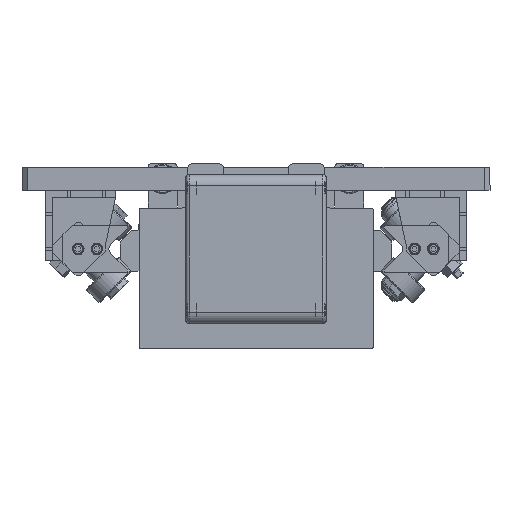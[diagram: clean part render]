
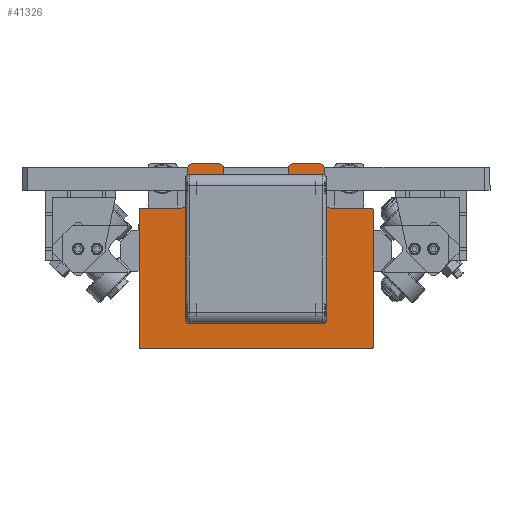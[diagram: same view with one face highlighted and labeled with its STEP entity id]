
A CAD part, front view. The second image highlights one B-rep face of the part: STEP entity #41326.
In plain terms, the highlighted planar face has unit normal (0, -1, 0) as drawn and (0, 0, -1) by its records, which use the part's own axes.
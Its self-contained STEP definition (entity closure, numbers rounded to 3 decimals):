
#40542=CARTESIAN_POINT('',(382.606,259.292,0.0));
#40543=VERTEX_POINT('',#40542);
#40550=CARTESIAN_POINT('',(382.606,280.292,0.0));
#40551=VERTEX_POINT('',#40550);
#40552=CARTESIAN_POINT('',(382.606,259.292,0.0));
#40553=DIRECTION('',(0.0,1.0,0.0));
#40554=VECTOR('',#40553,21.);
#40555=LINE('',#40552,#40554);
#40556=EDGE_CURVE('',#40543,#40551,#40555,.T.);
#40581=CARTESIAN_POINT('',(377.606,254.292,0.0));
#40582=VERTEX_POINT('',#40581);
#40589=CARTESIAN_POINT('',(377.606,259.292,0.0));
#40590=DIRECTION('',(0.0,0.0,1.0));
#40591=DIRECTION('',(0.0,-1.0,0.0));
#40592=AXIS2_PLACEMENT_3D('',#40589,#40590,#40591);
#40593=CIRCLE('',#40592,5.0);
#40594=EDGE_CURVE('',#40582,#40543,#40593,.T.);
#40613=CARTESIAN_POINT('',(349.606,254.292,0.0));
#40614=VERTEX_POINT('',#40613);
#40621=CARTESIAN_POINT('',(349.606,254.292,0.0));
#40622=DIRECTION('',(1.0,0.0,0.0));
#40623=VECTOR('',#40622,28.);
#40624=LINE('',#40621,#40623);
#40625=EDGE_CURVE('',#40614,#40582,#40624,.T.);
#40645=CARTESIAN_POINT('',(344.606,249.292,0.0));
#40646=VERTEX_POINT('',#40645);
#40653=CARTESIAN_POINT('',(349.606,249.292,0.0));
#40654=DIRECTION('',(0.0,0.0,-1.0));
#40655=DIRECTION('',(0.0,-1.0,0.0));
#40656=AXIS2_PLACEMENT_3D('',#40653,#40654,#40655);
#40657=CIRCLE('',#40656,5.0);
#40658=EDGE_CURVE('',#40646,#40614,#40657,.T.);
#40677=CARTESIAN_POINT('',(344.606,204.292,0.0));
#40678=VERTEX_POINT('',#40677);
#40685=CARTESIAN_POINT('',(344.606,204.292,0.0));
#40686=DIRECTION('',(0.0,1.0,0.0));
#40687=VECTOR('',#40686,45.0);
#40688=LINE('',#40685,#40687);
#40689=EDGE_CURVE('',#40678,#40646,#40688,.T.);
#40709=CARTESIAN_POINT('',(349.606,199.292,0.0));
#40710=VERTEX_POINT('',#40709);
#40717=CARTESIAN_POINT('',(349.606,204.292,0.0));
#40718=DIRECTION('',(0.0,0.0,-1.0));
#40719=DIRECTION('',(1.0,0.0,0.0));
#40720=AXIS2_PLACEMENT_3D('',#40717,#40718,#40719);
#40721=CIRCLE('',#40720,5.0);
#40722=EDGE_CURVE('',#40710,#40678,#40721,.T.);
#40741=CARTESIAN_POINT('',(377.606,199.292,0.0));
#40742=VERTEX_POINT('',#40741);
#40749=CARTESIAN_POINT('',(377.606,199.292,0.0));
#40750=DIRECTION('',(-1.0,0.0,0.0));
#40751=VECTOR('',#40750,28.);
#40752=LINE('',#40749,#40751);
#40753=EDGE_CURVE('',#40742,#40710,#40752,.T.);
#40773=CARTESIAN_POINT('',(382.606,194.292,0.0));
#40774=VERTEX_POINT('',#40773);
#40781=CARTESIAN_POINT('',(377.606,194.292,0.0));
#40782=DIRECTION('',(0.0,0.0,1.0));
#40783=DIRECTION('',(1.0,0.0,0.0));
#40784=AXIS2_PLACEMENT_3D('',#40781,#40782,#40783);
#40785=CIRCLE('',#40784,5.0);
#40786=EDGE_CURVE('',#40774,#40742,#40785,.T.);
#40805=CARTESIAN_POINT('',(382.606,173.292,0.0));
#40806=VERTEX_POINT('',#40805);
#40813=CARTESIAN_POINT('',(382.606,173.292,0.0));
#40814=DIRECTION('',(0.0,1.0,0.0));
#40815=VECTOR('',#40814,21.);
#40816=LINE('',#40813,#40815);
#40817=EDGE_CURVE('',#40806,#40774,#40816,.T.);
#40837=CARTESIAN_POINT('',(377.606,168.292,0.0));
#40838=VERTEX_POINT('',#40837);
#40845=CARTESIAN_POINT('',(377.606,173.292,0.0));
#40846=DIRECTION('',(0.0,0.0,1.0));
#40847=DIRECTION('',(0.0,-1.0,0.0));
#40848=AXIS2_PLACEMENT_3D('',#40845,#40846,#40847);
#40849=CIRCLE('',#40848,5.0);
#40850=EDGE_CURVE('',#40838,#40806,#40849,.T.);
#40869=CARTESIAN_POINT('',(349.606,168.292,0.0));
#40870=VERTEX_POINT('',#40869);
#40877=CARTESIAN_POINT('',(349.606,168.292,0.0));
#40878=DIRECTION('',(1.0,0.0,0.0));
#40879=VECTOR('',#40878,28.);
#40880=LINE('',#40877,#40879);
#40881=EDGE_CURVE('',#40870,#40838,#40880,.T.);
#40901=CARTESIAN_POINT('',(344.606,163.292,0.0));
#40902=VERTEX_POINT('',#40901);
#40909=CARTESIAN_POINT('',(349.606,163.292,0.0));
#40910=DIRECTION('',(0.0,0.0,-1.0));
#40911=DIRECTION('',(0.0,-1.0,0.0));
#40912=AXIS2_PLACEMENT_3D('',#40909,#40910,#40911);
#40913=CIRCLE('',#40912,5.0);
#40914=EDGE_CURVE('',#40902,#40870,#40913,.T.);
#40933=CARTESIAN_POINT('',(344.606,127.792,0.0));
#40934=VERTEX_POINT('',#40933);
#40941=CARTESIAN_POINT('',(344.606,127.792,0.0));
#40942=DIRECTION('',(0.0,1.0,0.0));
#40943=VECTOR('',#40942,35.5);
#40944=LINE('',#40941,#40943);
#40945=EDGE_CURVE('',#40934,#40902,#40944,.T.);
#40965=CARTESIAN_POINT('',(343.606,126.792,0.0));
#40966=VERTEX_POINT('',#40965);
#40973=CARTESIAN_POINT('',(343.606,127.792,0.0));
#40974=DIRECTION('',(0.0,0.0,1.0));
#40975=DIRECTION('',(0.0,-1.0,0.0));
#40976=AXIS2_PLACEMENT_3D('',#40973,#40974,#40975);
#40977=CIRCLE('',#40976,1.0);
#40978=EDGE_CURVE('',#40966,#40934,#40977,.T.);
#40997=CARTESIAN_POINT('',(225.606,126.792,0.0));
#40998=VERTEX_POINT('',#40997);
#41005=CARTESIAN_POINT('',(225.606,126.792,0.0));
#41006=DIRECTION('',(1.0,0.0,0.0));
#41007=VECTOR('',#41006,118.);
#41008=LINE('',#41005,#41007);
#41009=EDGE_CURVE('',#40998,#40966,#41008,.T.);
#41029=CARTESIAN_POINT('',(224.606,127.792,0.0));
#41030=VERTEX_POINT('',#41029);
#41037=CARTESIAN_POINT('',(225.606,127.792,0.0));
#41038=DIRECTION('',(0.0,0.0,1.0));
#41039=DIRECTION('',(-1.0,0.0,0.0));
#41040=AXIS2_PLACEMENT_3D('',#41037,#41038,#41039);
#41041=CIRCLE('',#41040,1.0);
#41042=EDGE_CURVE('',#41030,#40998,#41041,.T.);
#41061=CARTESIAN_POINT('',(224.606,325.792,0.0));
#41062=VERTEX_POINT('',#41061);
#41069=CARTESIAN_POINT('',(224.606,325.792,0.0));
#41070=DIRECTION('',(0.0,-1.0,0.0));
#41071=VECTOR('',#41070,198.);
#41072=LINE('',#41069,#41071);
#41073=EDGE_CURVE('',#41062,#41030,#41072,.T.);
#41093=CARTESIAN_POINT('',(225.606,326.792,0.0));
#41094=VERTEX_POINT('',#41093);
#41101=CARTESIAN_POINT('',(225.606,325.792,0.0));
#41102=DIRECTION('',(0.0,0.0,1.0));
#41103=DIRECTION('',(0.0,1.0,0.0));
#41104=AXIS2_PLACEMENT_3D('',#41101,#41102,#41103);
#41105=CIRCLE('',#41104,1.0);
#41106=EDGE_CURVE('',#41094,#41062,#41105,.T.);
#41125=CARTESIAN_POINT('',(343.606,326.792,0.0));
#41126=VERTEX_POINT('',#41125);
#41133=CARTESIAN_POINT('',(343.606,326.792,0.0));
#41134=DIRECTION('',(-1.0,0.0,0.0));
#41135=VECTOR('',#41134,118.);
#41136=LINE('',#41133,#41135);
#41137=EDGE_CURVE('',#41126,#41094,#41136,.T.);
#41157=CARTESIAN_POINT('',(344.606,325.792,0.0));
#41158=VERTEX_POINT('',#41157);
#41165=CARTESIAN_POINT('',(343.606,325.792,0.0));
#41166=DIRECTION('',(0.0,0.0,1.0));
#41167=DIRECTION('',(1.0,0.0,0.0));
#41168=AXIS2_PLACEMENT_3D('',#41165,#41166,#41167);
#41169=CIRCLE('',#41168,1.0);
#41170=EDGE_CURVE('',#41158,#41126,#41169,.T.);
#41189=CARTESIAN_POINT('',(344.606,290.292,0.0));
#41190=VERTEX_POINT('',#41189);
#41197=CARTESIAN_POINT('',(344.606,290.292,0.0));
#41198=DIRECTION('',(0.0,1.0,0.0));
#41199=VECTOR('',#41198,35.5);
#41200=LINE('',#41197,#41199);
#41201=EDGE_CURVE('',#41190,#41158,#41200,.T.);
#41221=CARTESIAN_POINT('',(349.606,285.292,0.0));
#41222=VERTEX_POINT('',#41221);
#41229=CARTESIAN_POINT('',(349.606,290.292,0.0));
#41230=DIRECTION('',(0.0,0.0,-1.0));
#41231=DIRECTION('',(1.0,0.0,0.0));
#41232=AXIS2_PLACEMENT_3D('',#41229,#41230,#41231);
#41233=CIRCLE('',#41232,5.0);
#41234=EDGE_CURVE('',#41222,#41190,#41233,.T.);
#41253=CARTESIAN_POINT('',(377.606,285.292,0.0));
#41254=VERTEX_POINT('',#41253);
#41261=CARTESIAN_POINT('',(377.606,285.292,0.0));
#41262=DIRECTION('',(-1.0,0.0,0.0));
#41263=VECTOR('',#41262,28.);
#41264=LINE('',#41261,#41263);
#41265=EDGE_CURVE('',#41254,#41222,#41264,.T.);
#41284=CARTESIAN_POINT('',(377.606,280.292,0.0));
#41285=DIRECTION('',(0.0,0.0,1.0));
#41286=DIRECTION('',(1.0,0.0,0.0));
#41287=AXIS2_PLACEMENT_3D('',#41284,#41285,#41286);
#41288=CIRCLE('',#41287,5.0);
#41289=EDGE_CURVE('',#40551,#41254,#41288,.T.);
#41295=CARTESIAN_POINT('',(301.431,226.792,0.0));
#41296=DIRECTION('',(0.0,0.0,1.0));
#41297=DIRECTION('',(1.0,0.0,0.0));
#41298=AXIS2_PLACEMENT_3D('',#41295,#41296,#41297);
#41299=PLANE('',#41298);
#41300=ORIENTED_EDGE('',*,*,#41289,.F.);
#41301=ORIENTED_EDGE('',*,*,#40556,.F.);
#41302=ORIENTED_EDGE('',*,*,#40594,.F.);
#41303=ORIENTED_EDGE('',*,*,#40625,.F.);
#41304=ORIENTED_EDGE('',*,*,#40658,.F.);
#41305=ORIENTED_EDGE('',*,*,#40689,.F.);
#41306=ORIENTED_EDGE('',*,*,#40722,.F.);
#41307=ORIENTED_EDGE('',*,*,#40753,.F.);
#41308=ORIENTED_EDGE('',*,*,#40786,.F.);
#41309=ORIENTED_EDGE('',*,*,#40817,.F.);
#41310=ORIENTED_EDGE('',*,*,#40850,.F.);
#41311=ORIENTED_EDGE('',*,*,#40881,.F.);
#41312=ORIENTED_EDGE('',*,*,#40914,.F.);
#41313=ORIENTED_EDGE('',*,*,#40945,.F.);
#41314=ORIENTED_EDGE('',*,*,#40978,.F.);
#41315=ORIENTED_EDGE('',*,*,#41009,.F.);
#41316=ORIENTED_EDGE('',*,*,#41042,.F.);
#41317=ORIENTED_EDGE('',*,*,#41073,.F.);
#41318=ORIENTED_EDGE('',*,*,#41106,.F.);
#41319=ORIENTED_EDGE('',*,*,#41137,.F.);
#41320=ORIENTED_EDGE('',*,*,#41170,.F.);
#41321=ORIENTED_EDGE('',*,*,#41201,.F.);
#41322=ORIENTED_EDGE('',*,*,#41234,.F.);
#41323=ORIENTED_EDGE('',*,*,#41265,.F.);
#41324=EDGE_LOOP('',(#41300,#41301,#41302,#41303,#41304,#41305,#41306,#41307,#41308,#41309,#41310,#41311,#41312,#41313,#41314,#41315,#41316,#41317,#41318,#41319,#41320,#41321,#41322,#41323));
#41325=FACE_OUTER_BOUND('',#41324,.T.);
#41326=ADVANCED_FACE('',(#41325),#41299,.F.);
